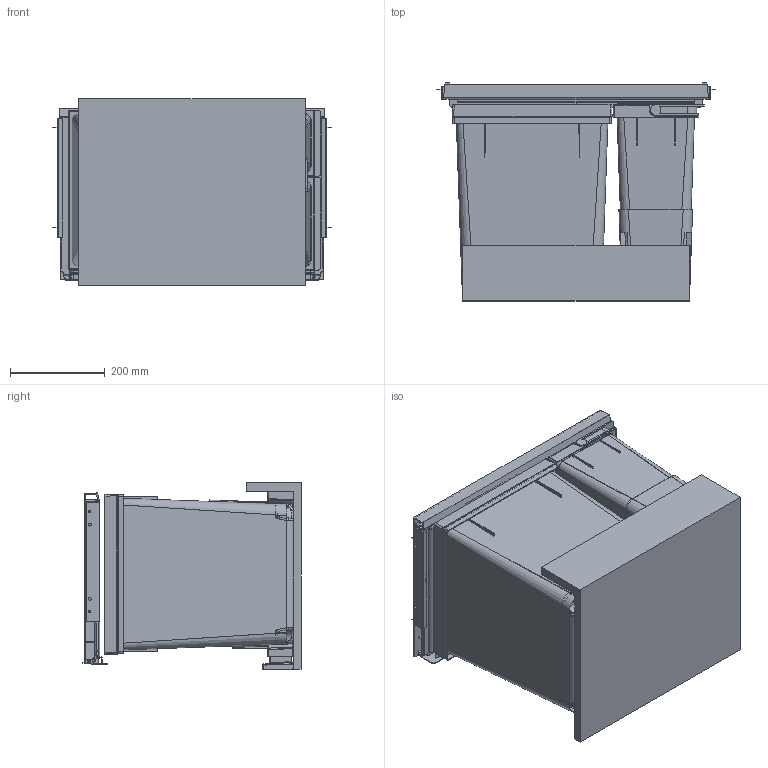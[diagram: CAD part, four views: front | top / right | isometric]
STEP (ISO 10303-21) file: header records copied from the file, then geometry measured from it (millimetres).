
FILE_DESCRIPTION((''),'2;1');
FILE_NAME('1003038','2024-07-18T06:43:01',('pbe'),(''),'CREO PARAMETRIC BY PTC INC, 2021184','CREO PARAMETRIC BY PTC INC, 2021184','');
FILE_SCHEMA(('AUTOMOTIVE_DESIGN { 1 0 10303 214 1 1 1 1 }'));
Products named in the file (1): 1003038
Bounding box: 588 x 459.5 x 393 mm (x, y, z)
Volume: 7810050.7 mm3; surface area: 4046396.6 mm2
Topology: 12 solids, 20 shells, 2425 faces, 6528 edges, 4091 vertices
Faces by surface type: plane 1172, cylinder 535, bspline 340, cone 176, torus 92, sphere 78, extrusion 32
Entity records: 102744 total; most frequent: CARTESIAN_POINT 45313, ORIENTED_EDGE 12900, DIRECTION 10584, EDGE_CURVE 6450, VERTEX_POINT 4091, VECTOR 3641, LINE 3609, AXIS2_PLACEMENT_3D 3470
